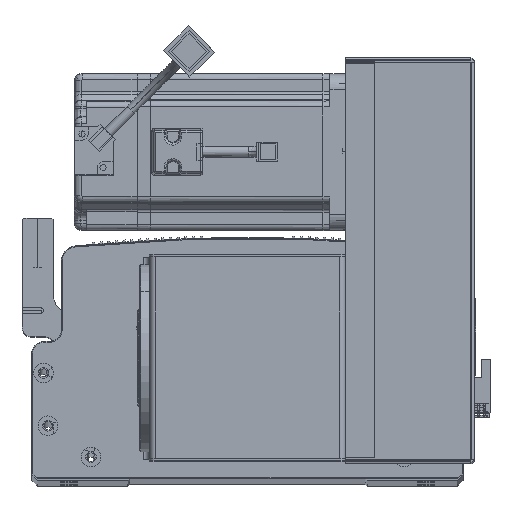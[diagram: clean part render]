
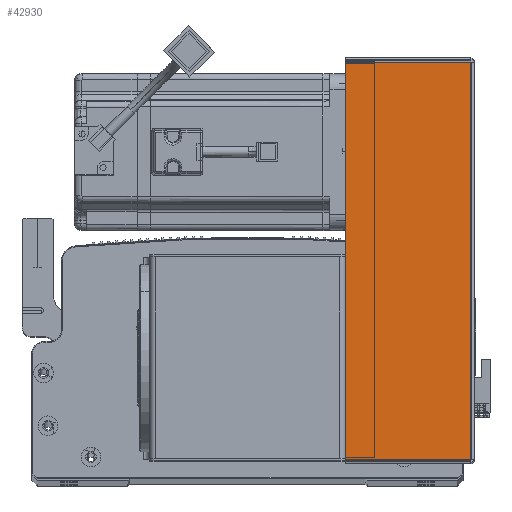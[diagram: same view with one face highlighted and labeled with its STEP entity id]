
A CAD part, top view. The second image highlights one B-rep face of the part: STEP entity #42930.
In plain terms, the highlighted planar face has unit normal (0, 0, 1) as drawn and (0, -1, 0) by its records, which use the part's own axes.
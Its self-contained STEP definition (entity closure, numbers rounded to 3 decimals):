
#1627 = ORIENTED_EDGE ( 'NONE', *, *, #28172, .T. ) ;
#3324 = VERTEX_POINT ( 'NONE', #14794 ) ;
#4167 = PLANE ( 'NONE',  #9354 ) ;
#7490 = LINE ( 'NONE', #42420, #11926 ) ;
#9354 = AXIS2_PLACEMENT_3D ( 'NONE', #79495, #58607, #18387 ) ;
#11926 = VECTOR ( 'NONE', #70546, 1000. ) ;
#13569 = VECTOR ( 'NONE', #64649, 1000. ) ;
#13684 = VECTOR ( 'NONE', #32104, 1000. ) ;
#14151 = LINE ( 'NONE', #56343, #25000 ) ;
#14794 = CARTESIAN_POINT ( 'NONE',  ( 64.5, -1.5, -203.293 ) ) ;
#15753 = EDGE_CURVE ( 'NONE', #38724, #54464, #7490, .T. ) ;
#17907 = LINE ( 'NONE', #57984, #13569 ) ;
#18387 = DIRECTION ( 'NONE',  ( -1., 0., 0. ) ) ;
#19183 = EDGE_CURVE ( 'NONE', #3324, #54464, #17907, .T. ) ;
#24792 = ORIENTED_EDGE ( 'NONE', *, *, #15753, .F. ) ;
#25000 = VECTOR ( 'NONE', #35801, 1000. ) ;
#25481 = CARTESIAN_POINT ( 'NONE',  ( 0.737, -1.5, 0. ) ) ;
#26459 = EDGE_CURVE ( 'NONE', #82132, #38724, #63481, .T. ) ;
#28172 = EDGE_CURVE ( 'NONE', #82132, #3324, #14151, .T. ) ;
#32104 = DIRECTION ( 'NONE',  ( 0., 0., 1. ) ) ;
#35801 = DIRECTION ( 'NONE',  ( 1., 0., 0. ) ) ;
#38724 = VERTEX_POINT ( 'NONE', #65228 ) ;
#42420 = CARTESIAN_POINT ( 'NONE',  ( 0., -1.5, -0.707 ) ) ;
#42930 = ADVANCED_FACE ( 'NONE', ( #68290 ), #4167, .F. ) ;
#43909 = CARTESIAN_POINT ( 'NONE',  ( 0.737, -1.5, -203.293 ) ) ;
#46854 = EDGE_LOOP ( 'NONE', ( #63613, #1627, #49290, #24792 ) ) ;
#49290 = ORIENTED_EDGE ( 'NONE', *, *, #19183, .T. ) ;
#54464 = VERTEX_POINT ( 'NONE', #68086 ) ;
#56343 = CARTESIAN_POINT ( 'NONE',  ( 0., -1.5, -203.293 ) ) ;
#57984 = CARTESIAN_POINT ( 'NONE',  ( 64.5, -1.5, 0. ) ) ;
#58607 = DIRECTION ( 'NONE',  ( 0., 1., 0. ) ) ;
#63481 = LINE ( 'NONE', #25481, #13684 ) ;
#63613 = ORIENTED_EDGE ( 'NONE', *, *, #26459, .F. ) ;
#64649 = DIRECTION ( 'NONE',  ( 0., 0., 1. ) ) ;
#65228 = CARTESIAN_POINT ( 'NONE',  ( 0.737, -1.5, -0.707 ) ) ;
#68086 = CARTESIAN_POINT ( 'NONE',  ( 64.5, -1.5, -0.707 ) ) ;
#68290 = FACE_OUTER_BOUND ( 'NONE', #46854, .T. ) ;
#70546 = DIRECTION ( 'NONE',  ( 1., 0., 0. ) ) ;
#79495 = CARTESIAN_POINT ( 'NONE',  ( 0., -1.5, 0. ) ) ;
#82132 = VERTEX_POINT ( 'NONE', #43909 ) ;
